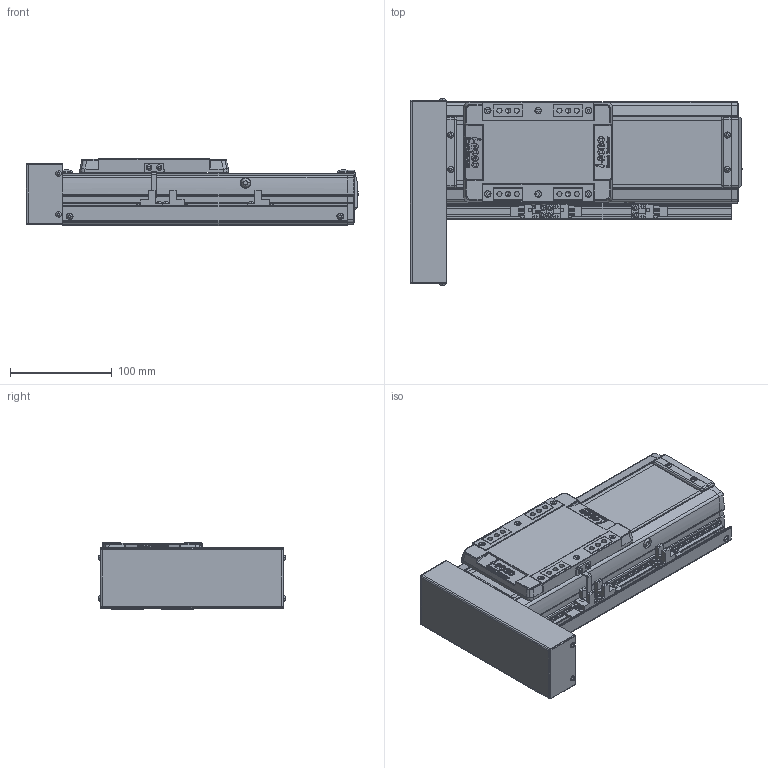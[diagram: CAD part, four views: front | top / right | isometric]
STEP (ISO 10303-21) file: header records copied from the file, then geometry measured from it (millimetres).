
FILE_DESCRIPTION(('STEP AP214'),'1');
FILE_NAME('Z:/Web/3D/SAN100/SAN100 양산용 (STEP)/SAN100ㅁㅁ-100PR+3SR.stp','2013-04-24T06:41:48',(' '),(' '),'Spatial InterOp 3D',' ',' ');
FILE_SCHEMA(('automotive_design'));
Length unit declared in the file: millimetre
Products named in the file (47): SUS COVER; SFX-SAN100; RRCV-SAN100; 스크루 : Round - M4.0 x 10.0; M3.0 x 6.0; 스크루 : Round - M3.0 x 6.0; FRBL-SAN100; SLBL-SAN100; SLCV-SAN100; 스크루 : Countersunk - M3.0 x 6.0; BASE; 스크루 : Round - M5.0 x 6.0; EE-SX674; SBK-SX674-352; SRL-16x17-380L; SGD-SAN100; BTCV-SAN65; BHCS M3 X 6L
Bounding box: 326.5 x 184.13 x 66 mm (x, y, z)
Volume: 1336112.7 mm3; surface area: 343197.5 mm2
Topology: 47 solids, 48 shells, 2271 faces, 5914 edges, 3835 vertices
Faces by surface type: plane 1254, cylinder 749, cone 174, sphere 60, torus 18, bspline 16
Entity records: 89384 total; most frequent: CARTESIAN_POINT 13177, DIRECTION 12425, ORIENTED_EDGE 11680, EDGE_CURVE 5840, AXIS2_PLACEMENT_3D 4352, VERTEX_POINT 3835, LINE 3721, VECTOR 3721
